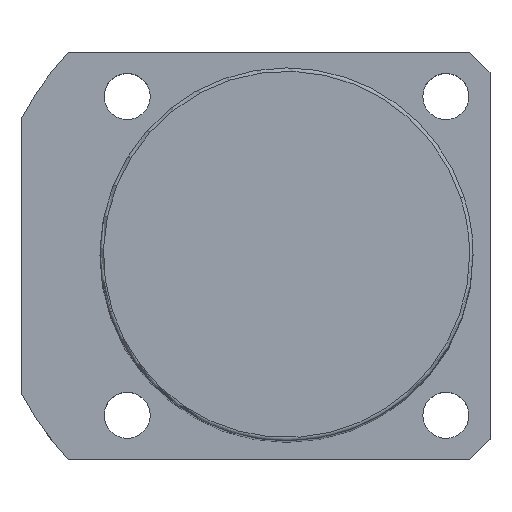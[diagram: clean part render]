
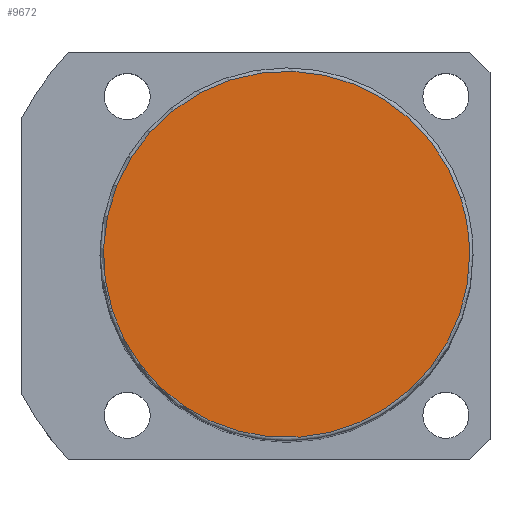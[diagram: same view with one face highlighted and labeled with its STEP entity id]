
A CAD part, top view. The second image highlights one B-rep face of the part: STEP entity #9672.
In plain terms, the highlighted planar face has unit normal (0, 0, 1).
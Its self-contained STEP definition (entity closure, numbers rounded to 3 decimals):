
#9605=CARTESIAN_POINT('',(25.679,8.343,136.0));
#9606=VERTEX_POINT('',#9605);
#9624=CARTESIAN_POINT('',(-25.679,-8.343,136.0));
#9625=VERTEX_POINT('',#9624);
#9633=CARTESIAN_POINT('',(0.0,0.0,136.0));
#9634=DIRECTION('',(0.0,0.0,1.0));
#9635=DIRECTION('',(1.0,0.0,0.0));
#9636=AXIS2_PLACEMENT_3D('',#9633,#9634,#9635);
#9637=CIRCLE('',#9636,27.0);
#9638=EDGE_CURVE('no 4515',#9606,#9625,#9637,.T.);
#9648=CARTESIAN_POINT('',(27.0,0.0,136.0));
#9649=VERTEX_POINT('',#9648);
#9650=CARTESIAN_POINT('',(0.0,0.0,136.0));
#9651=DIRECTION('',(0.0,0.0,1.0));
#9652=DIRECTION('',(1.0,0.0,0.0));
#9653=AXIS2_PLACEMENT_3D('',#9650,#9651,#9652);
#9654=CIRCLE('',#9653,27.0);
#9655=EDGE_CURVE('no 4524',#9649,#9606,#9654,.T.);
#9656=ORIENTED_EDGE('',*,*,#9655,.T.);
#9657=ORIENTED_EDGE('',*,*,#9638,.T.);
#9658=CARTESIAN_POINT('',(0.0,0.0,136.0));
#9659=DIRECTION('',(0.0,0.0,1.0));
#9660=DIRECTION('',(1.0,0.0,0.0));
#9661=AXIS2_PLACEMENT_3D('',#9658,#9659,#9660);
#9662=CIRCLE('',#9661,27.0);
#9663=EDGE_CURVE('no 4530',#9625,#9649,#9662,.T.);
#9664=ORIENTED_EDGE('',*,*,#9663,.T.);
#9665=EDGE_LOOP('',(#9656,#9657,#9664));
#9666=FACE_OUTER_BOUND('',#9665,.T.);
#9667=CARTESIAN_POINT('',(0.0,0.0,136.0));
#9668=DIRECTION('',(0.0,0.0,1.0));
#9669=DIRECTION('',(1.0,0.0,0.0));
#9670=AXIS2_PLACEMENT_3D('',#9667,#9668,#9669);
#9671=PLANE('',#9670);
#9672=ADVANCED_FACE('no 4517',(#9666),#9671,.T.);
